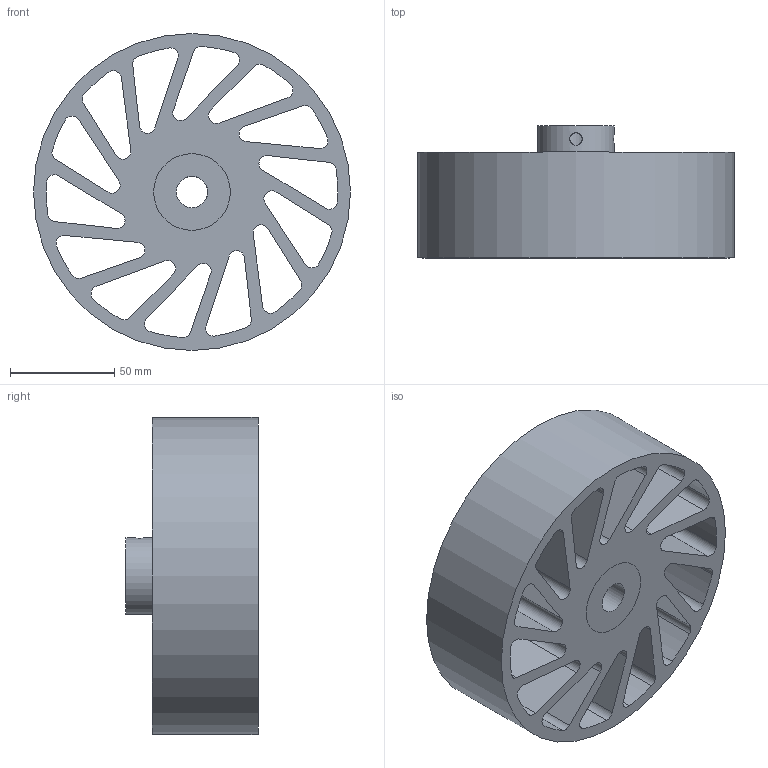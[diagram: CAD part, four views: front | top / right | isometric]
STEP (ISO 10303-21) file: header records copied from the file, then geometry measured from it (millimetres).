
FILE_DESCRIPTION(/* description */ (''),/* implementation_level */ '2;1');
FILE_NAME(/* name */ 'NCWM-610-XXX-YYY.stp',/* time_stamp */ '2023-02-02T16:51:30-06:00',/* author */ ('AG'),/* organization */ ('Meridian Laboratory'),/* preprocessor_version */ 'ST-DEVELOPER v18.1',/* originating_system */ 'Autodesk Inventor 2022',/* authorisation */ '');
FILE_SCHEMA (('AUTOMOTIVE_DESIGN { 1 0 10303 214 3 1 1 }'));
Length unit declared in the file: millimetre
Products named in the file (1): NCWM-540
Bounding box: 152.4 x 63.5 x 152.4 mm (x, y, z)
Volume: 521251 mm3; surface area: 134753.1 mm2
Topology: 2 solids, 2 shells, 94 faces, 276 edges, 186 vertices
Faces by surface type: cylinder 62, plane 32
Full cylindrical faces by diameter (mm): 6 x2, 15.025 x1, 36.83 x2, 152.4 x1
Entity records: 3516 total; most frequent: CARTESIAN_POINT 697, DIRECTION 576, ORIENTED_EDGE 552, EDGE_CURVE 276, AXIS2_PLACEMENT_3D 215, VERTEX_POINT 186, LINE 146, VECTOR 146
